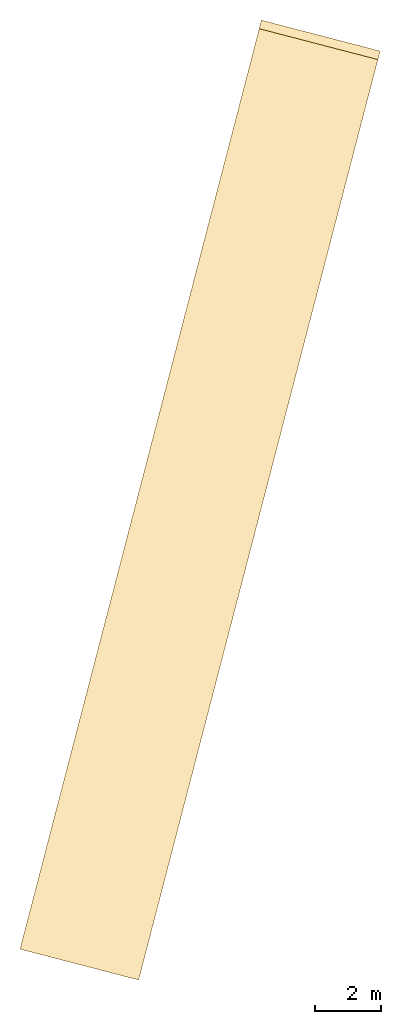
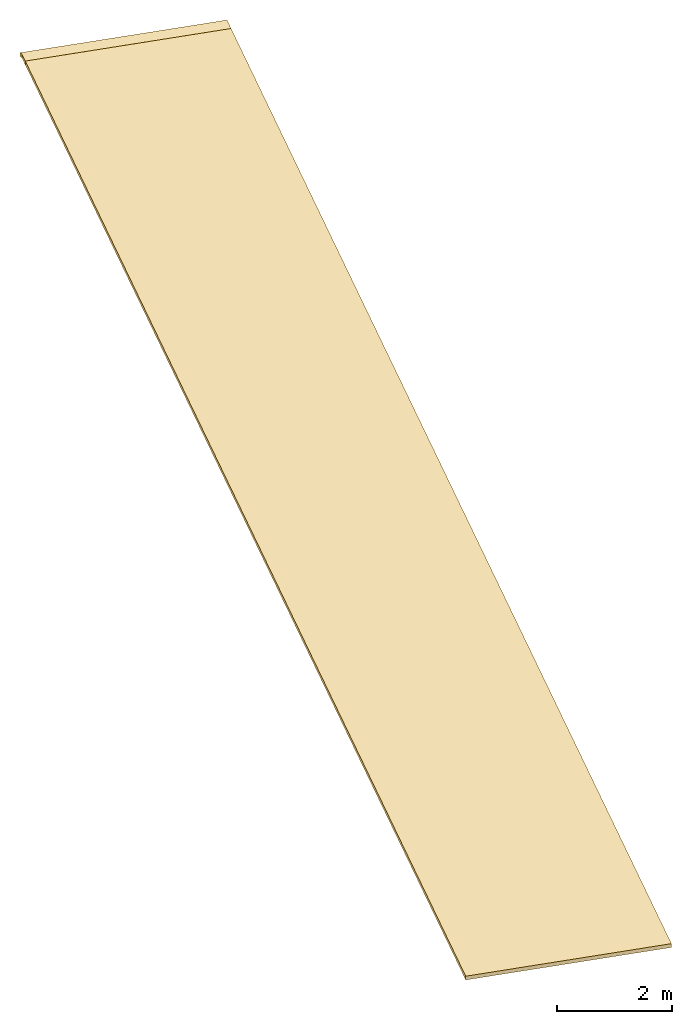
# One storey: 2 coverings.
"""IFC2X3 building model written with IfcOpenShell, lengths in millimetres."""

from ifc_helpers import new_model, entity, si_unit, converted_unit, derived_unit, direction, frame, origin, origin_with_axes, place, context, subcontext, project, spatial, faceted_brep, type_object, element, save


model = new_model("IFC2X3")

# Units and contexts
model_context = context("Model", 3, precision=0.01, world=origin(), true_north=direction((6.12323399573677e-17, 1.0)))
plan_context = context("Plan", 3, precision=1e-05, world=origin_with_axes())
body_context = subcontext(model_context, "Body", "Model", "MODEL_VIEW")
ifc_project = project(units=[converted_unit("PLANEANGLEUNIT", "DEGREE", entity("IfcPositiveLengthMeasure", 0.0174532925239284), si_unit("PLANEANGLEUNIT", "RADIAN"), dimensions=[0, 0, 0, 0, 0, 0, 0]), si_unit("AREAUNIT", "SQUARE_METRE"), si_unit("LENGTHUNIT", "METRE", prefix="MILLI"), si_unit("MASSUNIT", "GRAM", prefix="KILO"), si_unit("POWERUNIT", "WATT"), si_unit("PRESSUREUNIT", "PASCAL", prefix="KILO"), si_unit("FORCEUNIT", "NEWTON", prefix="KILO"), si_unit("ELECTRICVOLTAGEUNIT", "VOLT"), si_unit("ELECTRICCURRENTUNIT", "AMPERE"), si_unit("THERMODYNAMICTEMPERATUREUNIT", "DEGREE_CELSIUS"), si_unit("TIMEUNIT", "SECOND"), si_unit("VOLUMEUNIT", "CUBIC_METRE"), derived_unit("LINEARVELOCITYUNIT", [(si_unit("LENGTHUNIT", "METRE"), 1), (si_unit("TIMEUNIT", "SECOND"), -1)]), derived_unit("VOLUMETRICFLOWRATEUNIT", [(si_unit("VOLUMEUNIT", "CUBIC_METRE"), 1), (si_unit("TIMEUNIT", "SECOND"), -1)]), derived_unit("THERMALTRANSMITTANCEUNIT", [(si_unit("POWERUNIT", "WATT"), 1), (si_unit("THERMODYNAMICTEMPERATUREUNIT", "KELVIN"), -1), (si_unit("AREAUNIT", "SQUARE_METRE"), -1)]), derived_unit("SOUNDPRESSUREUNIT", [(si_unit("PRESSUREUNIT", "PASCAL"), 1)])], contexts=[model_context, plan_context])

# Site, building, storey
site_placement = place(None, frame((0.0, -2.21771188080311e-09, 0.0), z_axis=(0.0, 0.0, 1.0), x_axis=(0.266093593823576, -0.963947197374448, 0.0)))
site = spatial("IfcSite", under=ifc_project, at=site_placement, Name="ENZV", CompositionType="ELEMENT")
building_placement = place(site_placement, origin_with_axes())
building = spatial("IfcBuilding", under=site, at=building_placement, Name="ZV001", CompositionType="ELEMENT")
storey_placement = place(building_placement, frame((0.0, 0.0, 9300.0), z_axis=(0.0, 0.0, 1.0), x_axis=(1.0, 0.0, 0.0)))
storey = spatial("IfcBuildingStorey", under=building, at=storey_placement, Name="H02", CompositionType="ELEMENT", Elevation=9300.0)

# Coverings
covering_type = type_object("IfcCoveringType", Name="Compound Ceiling:ENZV_H01_Perf gipshimling 600x600mm", PredefinedType="CEILING")
covering_1_placement = place(storey_placement, origin_with_axes())
element("IfcCovering", 1, at=covering_1_placement, inside=storey, type_object=covering_type, Name="Compound Ceiling:ENZV_H01_Perf gipshimling 600x600mm", ObjectType="Compound Ceiling:ENZV_H01_Perf gipshimling 600x600mm", PredefinedType="CEILING", context=body_context, shape_type="Brep", body=[
    faceted_brep([(-157194.362740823, 367273.732524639, -919.987562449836), (-157194.362740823, 367273.732524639, -999.987562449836), (-182242.967069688, 381735.550630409, -999.987562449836), (-182242.967069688, 381735.550630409, -919.987562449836), (-180194.640344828, 384826.105380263, -999.987562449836), (-180194.640344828, 384826.105380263, -919.987562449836), (-181978.972918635, 381735.550630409, -919.987562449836), (-181978.972918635, 381735.550630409, -999.987562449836), (-155344.550839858, 370477.356085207, -999.987562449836), (-155344.550839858, 370477.356085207, -919.987562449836)], [[[0, 1, 2, 3]], [[4, 5, 6, 7]], [[7, 6, 3, 2]], [[1, 8, 4, 7, 2]], [[5, 9, 0, 3, 6]], [[8, 1, 0, 9]], [[9, 5, 4, 8]]], orient=[[False], [False], [False], [False], [False], [False], [False]]),
])
covering_2_placement = place(storey_placement, origin_with_axes())
element("IfcCovering", 2, at=covering_2_placement, inside=storey, type_object=covering_type, Name="Compound Ceiling:ENZV_H01_Perf gipshimling 600x600mm", ObjectType="Compound Ceiling:ENZV_H01_Perf gipshimling 600x600mm", PredefinedType="CEILING", context=body_context, shape_type="Brep", body=[
    faceted_brep([(-182243.805115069, 381735.550630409, -1000.0), (-182243.805115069, 381735.550630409, -920.0), (-182045.186308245, 381620.865672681, -920.0), (-182045.186308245, 381620.865672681, -1000.0), (-182286.666536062, 381735.550630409, -1000.0), (-182286.666536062, 381735.550630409, -920.0), (-180194.640344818, 384826.105380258, -920.0), (-180194.640344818, 384826.105380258, -1000.0), (-180425.25415571, 384959.264649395, -1000.0), (-180425.25415571, 384959.264649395, -920.0)], [[[0, 1, 2, 3]], [[4, 5, 1, 0]], [[6, 7, 3, 2]], [[7, 8, 4, 0, 3]], [[5, 9, 6, 2, 1]], [[8, 7, 6, 9]], [[9, 5, 4, 8]]], orient=[[False], [False], [False], [False], [False], [False], [False]]),
])

save(model, "model.ifc")
